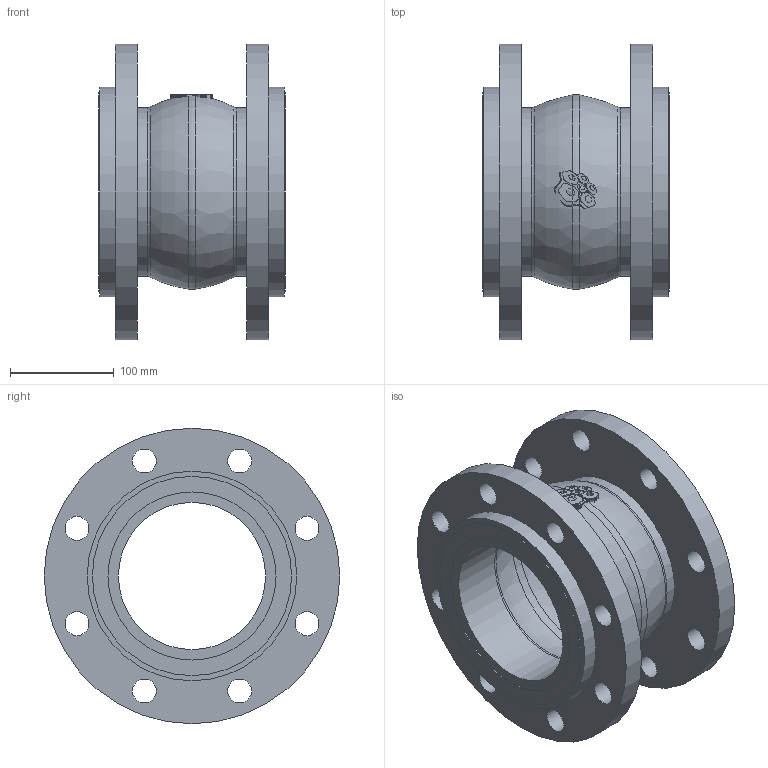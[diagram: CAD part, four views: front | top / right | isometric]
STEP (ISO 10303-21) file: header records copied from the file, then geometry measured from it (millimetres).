
FILE_DESCRIPTION(('STEP AP203'), '1');
FILE_NAME('3D_500_501-150-EPDM-FF', '', ('UNSPECIFIED'), ('UNSPECIFIED'), 'C3D Converter', 'C3D Toolkit', '');
FILE_SCHEMA(('CONFIG_CONTROL_DESIGN'));
Length unit declared in the file: millimetre
Bounding box: 180 x 285 x 285 mm (x, y, z)
Volume: 2980211.2 mm3; surface area: 401980.6 mm2
Topology: 9 solids, 9 shells, 877 faces, 2573 edges, 1722 vertices
Faces by surface type: plane 839, cylinder 28, torus 10
Full cylindrical faces by diameter (mm): 23 x16, 142 x2, 162 x2, 163 x2, 192 x2, 202 x2, 285 x2
Entity records: 35624 total; most frequent: CARTESIAN_POINT 5135, ORIENTED_EDGE 5070, DIRECTION 4387, EDGE_CURVE 2535, LINE 2439, VECTOR 2439, VERTEX_POINT 1722, AXIS2_PLACEMENT_3D 974
